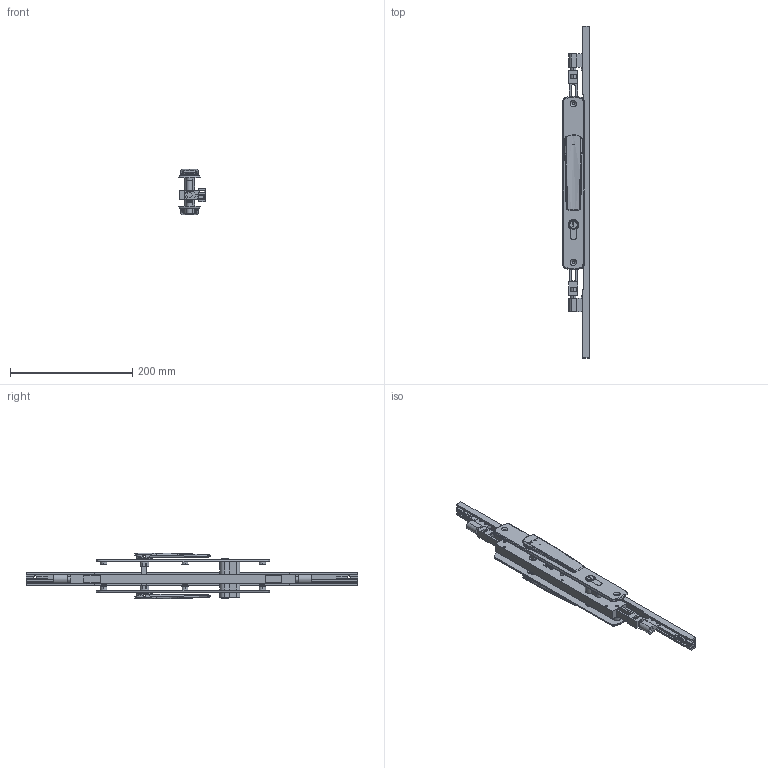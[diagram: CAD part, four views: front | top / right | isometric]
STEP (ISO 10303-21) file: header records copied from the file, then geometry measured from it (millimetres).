
FILE_DESCRIPTION (( 'STEP AP214' ), '1' );
FILE_NAME ('TPL-W-APC-616-L 28Oct2024.STEP', '2024-10-28T04:00:00', ( '' ), ( '' ), 'SwSTEP 2.0', 'SolidWorks 2023', '' );
FILE_SCHEMA (( 'AUTOMOTIVE_DESIGN' ));
Length unit declared in the file: millimetre
Products named in the file (24): Copy (2) of TPGen2 handle keyed external zinc - simplified^TPL-W-APC-116 18Oct2024_Vertical; Adapter C - simplfied^TPL-W-APC-116 18Oct2024; Copy of LKC-531 Lock twinpoint transmission rod wood system^TPL-W-APC-116 18Oct2024_Standard Range (588.7mm); TPL-W-APC-616-L 28Oct2024; Copy of LKC-505 Swing handle zinc - simplified^Copy (2) of TPGen2 handle keyed internal zinc - simplified_TPL-W-APC-116 18Oct2024; Copy of LKC-514 Escutcheon plate keyed external 285mm long zinc - simplified^Copy (2) of TPGen2 handle keyed external zinc - simplified_TPL-W-APC-116 18Oct2024; Copy of TPLGen2 lock body keyed assembly^TPL-W-APC-116 18Oct2024_Bolts extended; Adapter D - simplfied^TPL-W-APC-116 18Oct2024; Copy of LKC-584 Pivot body zinc - simplified^Copy (2) of TPGen2 handle keyed internal zinc - simplified_TPL-W-APC-116 18Oct2024; Copy of LKC-586 Spindle square 8mm with M4 hole^Copy (2) of TPGen2 handle keyed internal zinc - simplified_TPL-W-APC-116 18Oct2024_42mm; Copy (2) of TPGen2 handle keyed internal zinc - simplified^TPL-W-APC-116 18Oct2024_Vertical; Copy of COV-115-C Cover C suit TPLGen2 standard range AU^TPL-W-APC-116 18Oct2024; Copy of LKC-585 Rotator body zinc^Copy (2) of TPGen2 handle keyed internal zinc - simplified_TPL-W-APC-116 18Oct2024; Copy of LKC-512 Escutcheon plate keyed internal 285mm long zinc - simplified^Copy (2) of TPGen2 handle keyed internal zinc - simplified_TPL-W-APC-116 18Oct2024; Copy of Copy of LKC-531 Lock twinpoint transmission rod wood system^TPL-W-APC-116 18Oct2024_Standard Range 2891.7mm; Copy of COV-115-B Cover B suit TPLGen2 standard range AU with hinge holes^TPL-W-APC-116 18Oct2024_2870mm; Copy of LKC-585 Rotator body zinc^Copy (2) of TPGen2 handle keyed external zinc - simplified_TPL-W-APC-116 18Oct2024; Copy of TPLGen2 lock body keyed^Copy of TPLGen2 lock body keyed assembly_TPL-W-APC-116 18Oct2024; Copy of TPL-021 Lock cylinder double key C4 5 pin 62 (30-32)mm^TPL-W-APC-116 18Oct2024_Right; Copy of LKC-505 Swing handle zinc - simplified^Copy (2) of TPGen2 handle keyed external zinc - simplified_TPL-W-APC-116 18Oct2024; Copy of COV-115-A Cover A suit TPLGen2 standard range AU with hinge holes^TPL-W-APC-116 18Oct2024_1335mm; Bolt.step; Copy of LKC-584 Pivot body zinc - simplified^Copy (2) of TPGen2 handle keyed external zinc - simplified_TPL-W-APC-116 18Oct2024; Copy of TPLGen2 push rod - simplified^Copy of TPLGen2 lock body keyed assembly_TPL-W-APC-116 18Oct2024_Female thread M10
Assembly tree (21 placements, depth 3):
  TPL-W-APC-616-L 28Oct2024
    Copy of TPLGen2 lock body keyed assembly^TPL-W-APC-116 18Oct2024_Bolts extended
      Copy of TPLGen2 lock body keyed^Copy of TPLGen2 lock body keyed assembly_TPL-W-APC-116 18Oct2024
      Copy of TPLGen2 push rod - simplified^Copy of TPLGen2 lock body keyed assembly_TPL-W-APC-116 18Oct2024_Female thread M10  x2
    Copy (2) of TPGen2 handle keyed external zinc - simplified^TPL-W-APC-116 18Oct2024_Vertical
      Copy of LKC-514 Escutcheon plate keyed external 285mm long zinc - simplified^Copy (2) of TPGen2 handle keyed external zinc - simplified_TPL-W-APC-116 18Oct2024
      Copy of LKC-505 Swing handle zinc - simplified^Copy (2) of TPGen2 handle keyed external zinc - simplified_TPL-W-APC-116 18Oct2024
      Copy of LKC-585 Rotator body zinc^Copy (2) of TPGen2 handle keyed external zinc - simplified_TPL-W-APC-116 18Oct2024
      Copy of LKC-584 Pivot body zinc - simplified^Copy (2) of TPGen2 handle keyed external zinc - simplified_TPL-W-APC-116 18Oct2024
    Copy (2) of TPGen2 handle keyed internal zinc - simplified^TPL-W-APC-116 18Oct2024_Vertical
      Copy of LKC-512 Escutcheon plate keyed internal 285mm long zinc - simplified^Copy (2) of TPGen2 handle keyed internal zinc - simplified_TPL-W-APC-116 18Oct2024
      Copy of LKC-505 Swing handle zinc - simplified^Copy (2) of TPGen2 handle keyed internal zinc - simplified_TPL-W-APC-116 18Oct2024
      Copy of LKC-585 Rotator body zinc^Copy (2) of TPGen2 handle keyed internal zinc - simplified_TPL-W-APC-116 18Oct2024
      Copy of LKC-586 Spindle square 8mm with M4 hole^Copy (2) of TPGen2 handle keyed internal zinc - simplified_TPL-W-APC-116 18Oct2024_42mm
      Copy of LKC-584 Pivot body zinc - simplified^Copy (2) of TPGen2 handle keyed internal zinc - simplified_TPL-W-APC-116 18Oct2024
    Copy of TPL-021 Lock cylinder double key C4 5 pin 62 (30-32)mm^TPL-W-APC-116 18Oct2024_Right
    Copy of LKC-531 Lock twinpoint transmission rod wood system^TPL-W-APC-116 18Oct2024_Standard Range (588.7mm)
    Copy of Copy of LKC-531 Lock twinpoint transmission rod wood system^TPL-W-APC-116 18Oct2024_Standard Range 2891.7mm
    Copy of COV-115-C Cover C suit TPLGen2 standard range AU^TPL-W-APC-116 18Oct2024
    Adapter C - simplfied^TPL-W-APC-116 18Oct2024
    Adapter D - simplfied^TPL-W-APC-116 18Oct2024
  Copy of COV-115-B Cover B suit TPLGen2 standard range AU with hinge holes^TPL-W-APC-116 18Oct2024_2870mm
  Copy of COV-115-A Cover A suit TPLGen2 standard range AU with hinge holes^TPL-W-APC-116 18Oct2024_1335mm
  Bolt.step
Bounding box: 43.5 x 544 x 74.92 mm (x, y, z)
Volume: 346096 mm3; surface area: 170039.1 mm2
Topology: 18 solids, 18 shells, 1382 faces, 3356 edges, 2052 vertices
Faces by surface type: bspline 417, plane 387, cylinder 332, cone 132, torus 98, sphere 16
Entity records: 52028 total; most frequent: CARTESIAN_POINT 22744, ORIENTED_EDGE 6516, DIRECTION 5280, EDGE_CURVE 3258, AXIS2_PLACEMENT_3D 2048, VERTEX_POINT 1992, EDGE_LOOP 1480, ADVANCED_FACE 1347
